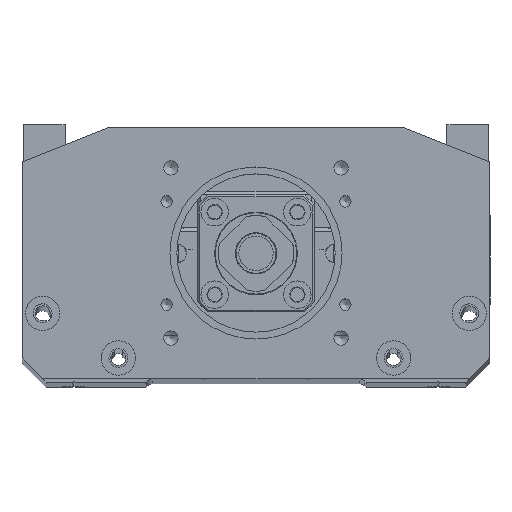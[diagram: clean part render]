
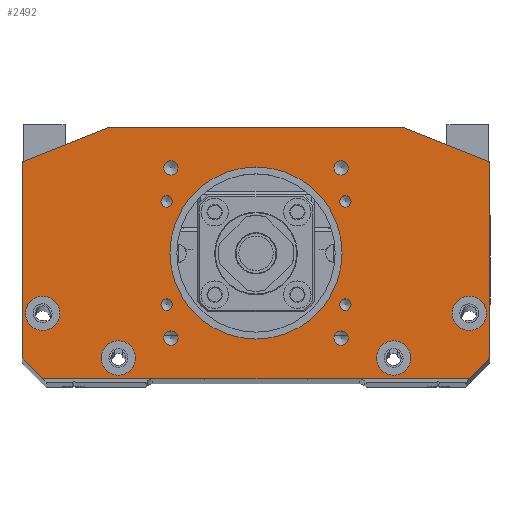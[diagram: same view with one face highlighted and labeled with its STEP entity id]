
A CAD part, top view. The second image highlights one B-rep face of the part: STEP entity #2492.
In plain terms, the highlighted planar face has unit normal (0, 0, 1).
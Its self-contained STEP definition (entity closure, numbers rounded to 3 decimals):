
#422=PLANE('',#15078);
#867=FACE_BOUND('',#4331,.T.);
#868=FACE_BOUND('',#4332,.T.);
#869=FACE_BOUND('',#4333,.T.);
#870=FACE_BOUND('',#4334,.T.);
#871=FACE_BOUND('',#4335,.T.);
#872=FACE_BOUND('',#4336,.T.);
#873=FACE_BOUND('',#4337,.T.);
#874=FACE_BOUND('',#4338,.T.);
#875=FACE_BOUND('',#4339,.T.);
#876=FACE_BOUND('',#4340,.T.);
#877=FACE_BOUND('',#4341,.T.);
#878=FACE_BOUND('',#4342,.T.);
#879=FACE_BOUND('',#4343,.T.);
#880=FACE_BOUND('',#4344,.T.);
#1786=CIRCLE('',#15065,1.65);
#1787=CIRCLE('',#15066,1.65);
#1788=CIRCLE('',#15067,1.65);
#1789=CIRCLE('',#15068,1.65);
#1790=CIRCLE('',#15069,2.1);
#1791=CIRCLE('',#15070,2.1);
#1792=CIRCLE('',#15071,2.1);
#1793=CIRCLE('',#15072,2.1);
#1794=CIRCLE('',#15073,25.);
#1795=CIRCLE('',#15074,5.);
#1796=CIRCLE('',#15075,5.);
#1797=CIRCLE('',#15076,5.);
#1798=CIRCLE('',#15077,5.);
#2492=ADVANCED_FACE('9',(#867,#868,#869,#870,#871,#872,#873,#874,#875,#876,
#877,#878,#879,#880),#422,.T.);
#4331=EDGE_LOOP('',(#7149));
#4332=EDGE_LOOP('',(#7150));
#4333=EDGE_LOOP('',(#7151));
#4334=EDGE_LOOP('',(#7152));
#4335=EDGE_LOOP('',(#7153));
#4336=EDGE_LOOP('',(#7154));
#4337=EDGE_LOOP('',(#7155));
#4338=EDGE_LOOP('',(#7156));
#4339=EDGE_LOOP('',(#7157));
#4340=EDGE_LOOP('',(#7158));
#4341=EDGE_LOOP('',(#7159));
#4342=EDGE_LOOP('',(#7160));
#4343=EDGE_LOOP('',(#7161));
#4344=EDGE_LOOP('',(#7162,#7163,#7164,#7165,#7166,#7167,#7168,#7169));
#7149=ORIENTED_EDGE('',*,*,#11610,.F.);
#7150=ORIENTED_EDGE('',*,*,#11611,.F.);
#7151=ORIENTED_EDGE('',*,*,#11612,.F.);
#7152=ORIENTED_EDGE('',*,*,#11613,.F.);
#7153=ORIENTED_EDGE('',*,*,#11614,.F.);
#7154=ORIENTED_EDGE('',*,*,#11615,.F.);
#7155=ORIENTED_EDGE('',*,*,#11616,.F.);
#7156=ORIENTED_EDGE('',*,*,#11617,.F.);
#7157=ORIENTED_EDGE('',*,*,#11618,.F.);
#7158=ORIENTED_EDGE('',*,*,#11619,.F.);
#7159=ORIENTED_EDGE('',*,*,#11620,.F.);
#7160=ORIENTED_EDGE('',*,*,#11621,.F.);
#7161=ORIENTED_EDGE('',*,*,#11622,.F.);
#7162=ORIENTED_EDGE('',*,*,#10731,.F.);
#7163=ORIENTED_EDGE('',*,*,#11580,.T.);
#7164=ORIENTED_EDGE('',*,*,#11623,.F.);
#7165=ORIENTED_EDGE('',*,*,#11583,.T.);
#7166=ORIENTED_EDGE('',*,*,#10639,.F.);
#7167=ORIENTED_EDGE('',*,*,#10691,.T.);
#7168=ORIENTED_EDGE('',*,*,#10706,.F.);
#7169=ORIENTED_EDGE('',*,*,#10720,.T.);
#9217=VERTEX_POINT('',#20809);
#9218=VERTEX_POINT('',#20811);
#9256=VERTEX_POINT('',#20909);
#9266=VERTEX_POINT('',#20937);
#9274=VERTEX_POINT('',#20962);
#9283=VERTEX_POINT('',#20984);
#9819=VERTEX_POINT('',#25273);
#9821=VERTEX_POINT('',#25279);
#9839=VERTEX_POINT('',#25336);
#9840=VERTEX_POINT('',#25338);
#9841=VERTEX_POINT('',#25340);
#9842=VERTEX_POINT('',#25342);
#9843=VERTEX_POINT('',#25344);
#9844=VERTEX_POINT('',#25346);
#9845=VERTEX_POINT('',#25348);
#9846=VERTEX_POINT('',#25350);
#9847=VERTEX_POINT('',#25352);
#9848=VERTEX_POINT('',#25354);
#9849=VERTEX_POINT('',#25356);
#9850=VERTEX_POINT('',#25358);
#9851=VERTEX_POINT('',#25360);
#10639=EDGE_CURVE('',#9217,#9218,#12381,.T.);
#10691=EDGE_CURVE('',#9217,#9256,#12423,.T.);
#10706=EDGE_CURVE('',#9266,#9256,#12436,.T.);
#10720=EDGE_CURVE('',#9266,#9274,#12448,.T.);
#10731=EDGE_CURVE('',#9283,#9274,#12457,.T.);
#11580=EDGE_CURVE('',#9283,#9819,#12890,.T.);
#11583=EDGE_CURVE('',#9821,#9218,#12893,.T.);
#11610=EDGE_CURVE('',#9839,#9839,#1786,.T.);
#11611=EDGE_CURVE('',#9840,#9840,#1787,.T.);
#11612=EDGE_CURVE('',#9841,#9841,#1788,.T.);
#11613=EDGE_CURVE('',#9842,#9842,#1789,.T.);
#11614=EDGE_CURVE('',#9843,#9843,#1790,.T.);
#11615=EDGE_CURVE('',#9844,#9844,#1791,.T.);
#11616=EDGE_CURVE('',#9845,#9845,#1792,.T.);
#11617=EDGE_CURVE('',#9846,#9846,#1793,.T.);
#11618=EDGE_CURVE('',#9847,#9847,#1794,.T.);
#11619=EDGE_CURVE('',#9848,#9848,#1795,.T.);
#11620=EDGE_CURVE('',#9849,#9849,#1796,.T.);
#11621=EDGE_CURVE('',#9850,#9850,#1797,.T.);
#11622=EDGE_CURVE('',#9851,#9851,#1798,.T.);
#11623=EDGE_CURVE('',#9821,#9819,#12907,.T.);
#12381=LINE('',#20810,#13360);
#12423=LINE('',#20910,#13402);
#12436=LINE('',#20938,#13415);
#12448=LINE('',#20963,#13427);
#12457=LINE('',#20985,#13436);
#12890=LINE('',#25272,#13869);
#12893=LINE('',#25278,#13872);
#12907=LINE('',#25361,#13886);
#13360=VECTOR('',#16218,1.);
#13402=VECTOR('',#16298,1.);
#13415=VECTOR('',#16321,1.);
#13427=VECTOR('',#16343,1.);
#13436=VECTOR('',#16360,1.);
#13869=VECTOR('',#18143,1.);
#13872=VECTOR('',#18148,1.);
#13886=VECTOR('',#18238,1.);
#15065=AXIS2_PLACEMENT_3D('',#25335,#18212,#18213);
#15066=AXIS2_PLACEMENT_3D('',#25337,#18214,#18215);
#15067=AXIS2_PLACEMENT_3D('',#25339,#18216,#18217);
#15068=AXIS2_PLACEMENT_3D('',#25341,#18218,#18219);
#15069=AXIS2_PLACEMENT_3D('',#25343,#18220,#18221);
#15070=AXIS2_PLACEMENT_3D('',#25345,#18222,#18223);
#15071=AXIS2_PLACEMENT_3D('',#25347,#18224,#18225);
#15072=AXIS2_PLACEMENT_3D('',#25349,#18226,#18227);
#15073=AXIS2_PLACEMENT_3D('',#25351,#18228,#18229);
#15074=AXIS2_PLACEMENT_3D('',#25353,#18230,#18231);
#15075=AXIS2_PLACEMENT_3D('',#25355,#18232,#18233);
#15076=AXIS2_PLACEMENT_3D('',#25357,#18234,#18235);
#15077=AXIS2_PLACEMENT_3D('',#25359,#18236,#18237);
#15078=AXIS2_PLACEMENT_3D('',#25362,#18239,#18240);
#16218=DIRECTION('',(0.,1.,0.));
#16298=DIRECTION('',(0.707,-0.707,0.));
#16321=DIRECTION('',(-1.,0.,0.));
#16343=DIRECTION('',(0.707,0.707,0.));
#16360=DIRECTION('',(0.,-1.,0.));
#18143=DIRECTION('',(-0.928,0.371,0.));
#18148=DIRECTION('',(-0.928,-0.371,0.));
#18212=DIRECTION('',(0.,0.,1.));
#18213=DIRECTION('',(1.,0.,0.));
#18214=DIRECTION('',(0.,0.,1.));
#18215=DIRECTION('',(1.,0.,0.));
#18216=DIRECTION('',(0.,0.,1.));
#18217=DIRECTION('',(1.,0.,0.));
#18218=DIRECTION('',(0.,0.,1.));
#18219=DIRECTION('',(1.,0.,0.));
#18220=DIRECTION('',(0.,0.,1.));
#18221=DIRECTION('',(1.,0.,0.));
#18222=DIRECTION('',(0.,0.,1.));
#18223=DIRECTION('',(1.,0.,0.));
#18224=DIRECTION('',(0.,0.,1.));
#18225=DIRECTION('',(1.,0.,0.));
#18226=DIRECTION('',(0.,0.,1.));
#18227=DIRECTION('',(1.,0.,0.));
#18228=DIRECTION('',(0.,0.,1.));
#18229=DIRECTION('',(1.,0.,0.));
#18230=DIRECTION('',(0.,0.,1.));
#18231=DIRECTION('',(1.,0.,0.));
#18232=DIRECTION('',(0.,0.,1.));
#18233=DIRECTION('',(1.,0.,0.));
#18234=DIRECTION('',(0.,0.,1.));
#18235=DIRECTION('',(1.,0.,0.));
#18236=DIRECTION('',(0.,0.,1.));
#18237=DIRECTION('',(1.,0.,0.));
#18238=DIRECTION('',(1.,0.,0.));
#18239=DIRECTION('',(0.,0.,1.));
#18240=DIRECTION('',(-1.,0.,0.));
#20809=CARTESIAN_POINT('',(-68.,6.,180.));
#20810=CARTESIAN_POINT('',(-68.,0.,180.));
#20811=CARTESIAN_POINT('',(-68.,63.,180.));
#20909=CARTESIAN_POINT('',(-62.,0.,180.));
#20910=CARTESIAN_POINT('',(-49.25,-12.75,180.));
#20937=CARTESIAN_POINT('',(62.,0.,180.));
#20938=CARTESIAN_POINT('',(68.,0.,180.));
#20962=CARTESIAN_POINT('',(68.,6.,180.));
#20963=CARTESIAN_POINT('',(49.25,-12.75,180.));
#20984=CARTESIAN_POINT('',(68.,63.,180.));
#20985=CARTESIAN_POINT('',(68.,0.,180.));
#25272=CARTESIAN_POINT('',(18.517,82.793,180.));
#25273=CARTESIAN_POINT('',(43.,73.,180.));
#25278=CARTESIAN_POINT('',(-18.517,82.793,180.));
#25279=CARTESIAN_POINT('',(-43.,73.,180.));
#25335=CARTESIAN_POINT('',(25.981,51.5,180.));
#25336=CARTESIAN_POINT('',(27.631,51.5,180.));
#25337=CARTESIAN_POINT('',(25.981,21.5,180.));
#25338=CARTESIAN_POINT('',(27.631,21.5,180.));
#25339=CARTESIAN_POINT('',(-25.981,21.5,180.));
#25340=CARTESIAN_POINT('',(-24.331,21.5,180.));
#25341=CARTESIAN_POINT('',(-25.981,51.5,180.));
#25342=CARTESIAN_POINT('',(-24.331,51.5,180.));
#25343=CARTESIAN_POINT('',(-24.749,61.249,180.));
#25344=CARTESIAN_POINT('',(-22.649,61.249,180.));
#25345=CARTESIAN_POINT('',(24.749,61.249,180.));
#25346=CARTESIAN_POINT('',(26.849,61.249,180.));
#25347=CARTESIAN_POINT('',(24.749,11.751,180.));
#25348=CARTESIAN_POINT('',(26.849,11.751,180.));
#25349=CARTESIAN_POINT('',(-24.749,11.751,180.));
#25350=CARTESIAN_POINT('',(-22.649,11.751,180.));
#25351=CARTESIAN_POINT('',(0.,36.5,180.));
#25352=CARTESIAN_POINT('',(25.,36.5,180.));
#25353=CARTESIAN_POINT('',(-62.,19.,180.));
#25354=CARTESIAN_POINT('',(-57.,19.,180.));
#25355=CARTESIAN_POINT('',(62.,19.,180.));
#25356=CARTESIAN_POINT('',(67.,19.,180.));
#25357=CARTESIAN_POINT('',(-40.,6.,180.));
#25358=CARTESIAN_POINT('',(-35.,6.,180.));
#25359=CARTESIAN_POINT('',(40.,6.,180.));
#25360=CARTESIAN_POINT('',(45.,6.,180.));
#25361=CARTESIAN_POINT('',(68.,73.,180.));
#25362=CARTESIAN_POINT('',(0.,36.5,180.));
